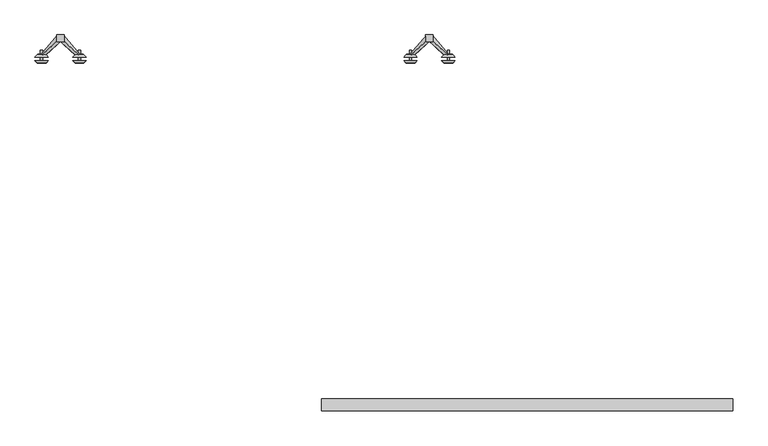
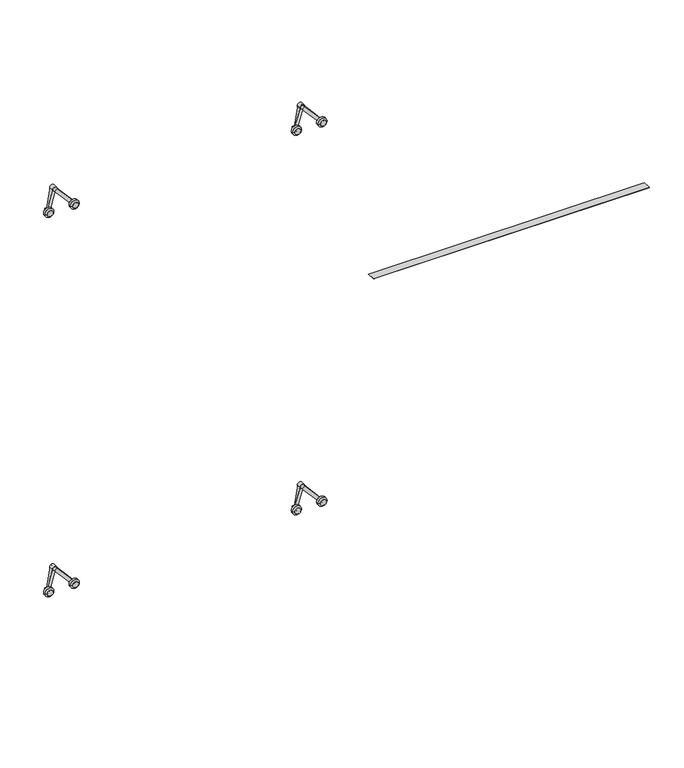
"""IFC4 building model written with IfcOpenShell, lengths in millimetres: proxy geometry, Ponto de ônibus_final : Ponto de ônibus_final."""

from ifc_helpers import new_model, si_unit, point, frame, frame_2d, origin, place, context, project, spatial, polyline, circle_curve, trimmed, segment, composite_curve, outline, extrude, source, transform, mapped, element, save
from ifc_brep_helpers import plane_surface, cylinder_surface, revolved_surface, advanced_brep


def generic_models_ae14a86f(model_context):
    return source(origin(), model_context, "Body", "SolidModel", [
        extrude(outline(polyline([(-17.7, 0.0), (-17.7, 1.5875), (-3.1750001, 1.5875), (63.5, 57.15), (69.8499999, 57.15), (69.8499999, 44.45), (0.0, 0.0), (-17.7, 0.0)])), frame((-40.8119185, 16.35, 470.3685688), z_axis=(-0.7071067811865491, 0.0, 0.707106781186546), x_axis=(0.707106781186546, 0.0, 0.7071067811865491)), (0.0, 0.0, 1.0), 15.0),
        extrude(outline(polyline([(-17.7000001, 0.0), (0.0, 0.0), (69.8499999, -44.45), (69.8499999, -57.15), (63.5, -57.15), (-3.1750001, -1.5875), (-17.7000001, -1.5875), (-17.7000001, 0.0)])), frame((42.874169, 16.35, 470.3685688), z_axis=(0.7071067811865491, 0.0, 0.707106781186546), x_axis=(-0.707106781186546, 0.0, 0.7071067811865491)), (0.0, 0.0, 1.0), 15.0),
        advanced_brep(
        [(42.3061253, -6.35, 468.8432143), (67.7061253, -6.35, 468.8432143), (35.9561253, 0.0, 468.8432143), (74.0561253, 0.0, 468.8432143)],
        [
            (0, 1, circle_curve(frame((55.0061253, -6.35, 468.8432143), z_axis=(0.0, -1.0, 0.0), x_axis=(-1.0, 0.0, 0.0)), 12.7)),
            (1, 0, circle_curve(frame((55.0061253, -6.35, 468.8432143), z_axis=(0.0, -1.0, 0.0), x_axis=(1.0, 0.0, 0.0)), 12.7)),
            (2, 3, circle_curve(frame((55.0061253, 0.0, 468.8432143), z_axis=(0.0, 1.0, 0.0), x_axis=(1.0, 0.0, 0.0)), 19.05)),
            (3, 2, circle_curve(frame((55.0061253, 0.0, 468.8432143), z_axis=(0.0, 1.0, 0.0), x_axis=(-1.0, 0.0, 0.0)), 19.05)),
            (2, 0),
            (1, 3),
        ],
        [
            plane_surface(frame((55.0061253, -6.35, 468.8432143), z_axis=(0.0, -1.0, 0.0), x_axis=(0.0, 0.0, -1.0))),
            plane_surface(frame((55.0061253, 0.0, 468.8432143), z_axis=(0.0, 1.0, 0.0), x_axis=(0.0, 0.0, -1.0))),
            revolved_surface(polyline([(67.70612530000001, -6.35, 468.8432143), (74.0561253, 0.0, 468.8432143)]), (55.0061253, -19.05, 468.8432143), (0.0, 1.0, 0.0)),
            revolved_surface(polyline([(42.3061253, -6.35, 468.8432143), (35.9561253, 0.0, 468.8432143)]), (55.0061253, -19.05, 468.8432143), (0.0, 1.0, 0.0)),
        ],
        [
            (0, [[1, 2]]),
            (1, [[3, 4]]),
            (2, [[-3, 5, -2, 6]]),
            (3, [[-4, -6, -1, -5]]),
        ],
    ),
        advanced_brep(
        [(42.3061253, 16.35, 468.8432143), (67.7061253, 16.35, 468.8432143), (51.8311253, 16.35, 468.8432143), (58.1811253, 16.35, 468.8432143), (35.9561253, 10.0, 468.8432143), (74.0561253, 10.0, 468.8432143), (58.1811253, 10.0, 468.8432143), (51.8311253, 10.0, 468.8432143), (58.1811253, 30.0, 468.8432143), (51.8311253, 30.0, 468.8432143), (58.1811253, 0.0, 468.8432143), (51.8311253, 0.0, 468.8432143)],
        [
            (0, 1, circle_curve(frame((55.0061253, 16.35, 468.8432143), z_axis=(0.0, 1.0, 0.0), x_axis=(-1.0, 0.0, 0.0)), 12.7)),
            (1, 0, circle_curve(frame((55.0061253, 16.35, 468.8432143), z_axis=(0.0, 1.0, 0.0), x_axis=(1.0, 0.0, 0.0)), 12.7)),
            (2, 3, circle_curve(frame((55.0061253, 16.35, 468.8432143), z_axis=(0.0, -1.0, 0.0), x_axis=(-1.0, 0.0, 0.0)), 3.175)),
            (3, 2, circle_curve(frame((55.0061253, 16.35, 468.8432143), z_axis=(0.0, -1.0, 0.0), x_axis=(-1.0, 0.0, 0.0)), 3.175)),
            (4, 5, circle_curve(frame((55.0061253, 10.0, 468.8432143), z_axis=(0.0, -1.0, 0.0), x_axis=(1.0, 0.0, 0.0)), 19.05)),
            (5, 4, circle_curve(frame((55.0061253, 10.0, 468.8432143), z_axis=(0.0, -1.0, 0.0), x_axis=(-1.0, 0.0, 0.0)), 19.05)),
            (6, 7, circle_curve(frame((55.0061253, 10.0, 468.8432143), z_axis=(0.0, 1.0, 0.0), x_axis=(-1.0, 0.0, 0.0)), 3.175)),
            (7, 6, circle_curve(frame((55.0061253, 10.0, 468.8432143), z_axis=(0.0, 1.0, 0.0), x_axis=(-1.0, 0.0, 0.0)), 3.175)),
            (1, 5),
            (4, 0),
            (8, 9, circle_curve(frame((55.0061253, 30.0, 468.8432143), z_axis=(0.0, 1.0, 0.0), x_axis=(-1.0, 0.0, 0.0)), 3.175)),
            (9, 8, circle_curve(frame((55.0061253, 30.0, 468.8432143), z_axis=(0.0, 1.0, 0.0), x_axis=(-1.0, 0.0, 0.0)), 3.175)),
            (10, 11, circle_curve(frame((55.0061253, 0.0, 468.8432143), z_axis=(0.0, -1.0, 0.0), x_axis=(-1.0, 0.0, 0.0)), 3.175)),
            (11, 10, circle_curve(frame((55.0061253, 0.0, 468.8432143), z_axis=(0.0, -1.0, 0.0), x_axis=(-1.0, 0.0, 0.0)), 3.175)),
            (8, 3),
            (2, 9),
            (11, 7),
            (6, 10),
        ],
        [
            plane_surface(frame((55.0061253, 16.35, 468.8432143), z_axis=(0.0, 1.0, 0.0), x_axis=(0.0, 0.0, -1.0))),
            plane_surface(frame((55.0061253, 10.0, 468.8432143), z_axis=(0.0, -1.0, 0.0), x_axis=(0.0, 0.0, -1.0))),
            revolved_surface(polyline([(67.7061253, 16.35, 468.8432143), (74.0561253, 10.0, 468.8432143)]), (55.0061253, 29.05, 468.8432143), (0.0, -1.0, 0.0)),
            revolved_surface(polyline([(42.3061253, 16.35, 468.8432143), (35.9561253, 10.0, 468.8432143)]), (55.0061253, 29.05, 468.8432143), (0.0, -1.0, 0.0)),
            plane_surface(frame((51.8311253, 30.0, 468.8432143), z_axis=(0.0, 1.0, 0.0), x_axis=(0.0, 0.0, 1.0))),
            plane_surface(frame((51.8311253, 0.0, 468.8432143), z_axis=(0.0, -1.0, 0.0), x_axis=(0.0, 0.0, -1.0))),
            cylinder_surface(frame((55.0061253, 0.0, 468.8432143), z_axis=(0.0, 1.0, 0.0), x_axis=(-1.0, 0.0, 0.0)), 3.175),
        ],
        [
            (0, [[1, 2], [3, 4]]),
            (1, [[5, 6], [7, 8]]),
            (2, [[-2, 9, -5, 10]]),
            (3, [[-1, -10, -6, -9]]),
            (4, [[11, 12]]),
            (5, [[13, 14]]),
            (6, [[-11, 15, -3, 16]]),
            (6, [[-14, 17, -7, 18]]),
            (6, [[-12, -16, -4, -15]]),
            (6, [[-13, -18, -8, -17]]),
        ],
    ),
        advanced_brep(
        [(-65.6438747, -6.35, 468.8432143), (-40.2438747, -6.35, 468.8432143), (-71.9938747, 0.0, 468.8432143), (-33.8938747, 0.0, 468.8432143)],
        [
            (0, 1, circle_curve(frame((-52.9438747, -6.35, 468.8432143), z_axis=(0.0, -1.0, 0.0), x_axis=(-1.0, 0.0, 0.0)), 12.7)),
            (1, 0, circle_curve(frame((-52.9438747, -6.35, 468.8432143), z_axis=(0.0, -1.0, 0.0), x_axis=(1.0, 0.0, 0.0)), 12.7)),
            (2, 3, circle_curve(frame((-52.9438747, 0.0, 468.8432143), z_axis=(0.0, 1.0, 0.0), x_axis=(1.0, 0.0, 0.0)), 19.05)),
            (3, 2, circle_curve(frame((-52.9438747, 0.0, 468.8432143), z_axis=(0.0, 1.0, 0.0), x_axis=(-1.0, 0.0, 0.0)), 19.05)),
            (2, 0),
            (1, 3),
        ],
        [
            plane_surface(frame((-52.9438747, -6.35, 468.8432143), z_axis=(0.0, -1.0, 0.0), x_axis=(0.0, 0.0, -1.0))),
            plane_surface(frame((-52.9438747, 0.0, 468.8432143), z_axis=(0.0, 1.0, 0.0), x_axis=(0.0, 0.0, -1.0))),
            revolved_surface(polyline([(-40.2438747, -6.35, 468.8432143), (-33.8938747, 0.0, 468.8432143)]), (-52.9438747, -19.05, 468.8432143), (0.0, 1.0, 0.0)),
            revolved_surface(polyline([(-65.64387470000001, -6.35, 468.8432143), (-71.9938747, 0.0, 468.8432143)]), (-52.9438747, -19.05, 468.8432143), (0.0, 1.0, 0.0)),
        ],
        [
            (0, [[1, 2]]),
            (1, [[3, 4]]),
            (2, [[-3, 5, -2, 6]]),
            (3, [[-4, -6, -1, -5]]),
        ],
    ),
        advanced_brep(
        [(-65.6438747, 16.35, 468.8432143), (-40.2438747, 16.35, 468.8432143), (-56.1188747, 16.35, 468.8432143), (-49.7688747, 16.35, 468.8432143), (-71.9938747, 10.0, 468.8432143), (-33.8938747, 10.0, 468.8432143), (-49.7688747, 10.0, 468.8432143), (-56.1188747, 10.0, 468.8432143), (-49.7688747, 30.0, 468.8432143), (-56.1188747, 30.0, 468.8432143), (-49.7688747, 0.0, 468.8432143), (-56.1188747, 0.0, 468.8432143)],
        [
            (0, 1, circle_curve(frame((-52.9438747, 16.35, 468.8432143), z_axis=(0.0, 1.0, 0.0), x_axis=(-1.0, 0.0, 0.0)), 12.7)),
            (1, 0, circle_curve(frame((-52.9438747, 16.35, 468.8432143), z_axis=(0.0, 1.0, 0.0), x_axis=(1.0, 0.0, 0.0)), 12.7)),
            (2, 3, circle_curve(frame((-52.9438747, 16.35, 468.8432143), z_axis=(0.0, -1.0, 0.0), x_axis=(-1.0, 0.0, 0.0)), 3.175)),
            (3, 2, circle_curve(frame((-52.9438747, 16.35, 468.8432143), z_axis=(0.0, -1.0, 0.0), x_axis=(-1.0, 0.0, 0.0)), 3.175)),
            (4, 5, circle_curve(frame((-52.9438747, 10.0, 468.8432143), z_axis=(0.0, -1.0, 0.0), x_axis=(1.0, 0.0, 0.0)), 19.05)),
            (5, 4, circle_curve(frame((-52.9438747, 10.0, 468.8432143), z_axis=(0.0, -1.0, 0.0), x_axis=(-1.0, 0.0, 0.0)), 19.05)),
            (6, 7, circle_curve(frame((-52.9438747, 10.0, 468.8432143), z_axis=(0.0, 1.0, 0.0), x_axis=(-1.0, 0.0, 0.0)), 3.175)),
            (7, 6, circle_curve(frame((-52.9438747, 10.0, 468.8432143), z_axis=(0.0, 1.0, 0.0), x_axis=(-1.0, 0.0, 0.0)), 3.175)),
            (1, 5),
            (4, 0),
            (8, 9, circle_curve(frame((-52.9438747, 30.0, 468.8432143), z_axis=(0.0, 1.0, 0.0), x_axis=(-1.0, 0.0, 0.0)), 3.175)),
            (9, 8, circle_curve(frame((-52.9438747, 30.0, 468.8432143), z_axis=(0.0, 1.0, 0.0), x_axis=(-1.0, 0.0, 0.0)), 3.175)),
            (10, 11, circle_curve(frame((-52.9438747, 0.0, 468.8432143), z_axis=(0.0, -1.0, 0.0), x_axis=(-1.0, 0.0, 0.0)), 3.175)),
            (11, 10, circle_curve(frame((-52.9438747, 0.0, 468.8432143), z_axis=(0.0, -1.0, 0.0), x_axis=(-1.0, 0.0, 0.0)), 3.175)),
            (8, 3),
            (2, 9),
            (11, 7),
            (6, 10),
        ],
        [
            plane_surface(frame((-52.9438747, 16.35, 468.8432143), z_axis=(0.0, 1.0, 0.0), x_axis=(0.0, 0.0, -1.0))),
            plane_surface(frame((-52.9438747, 10.0, 468.8432143), z_axis=(0.0, -1.0, 0.0), x_axis=(0.0, 0.0, -1.0))),
            revolved_surface(polyline([(-40.2438747, 16.35, 468.8432143), (-33.8938747, 10.0, 468.8432143)]), (-52.9438747, 29.05, 468.8432143), (0.0, -1.0, 0.0)),
            revolved_surface(polyline([(-65.6438747, 16.35, 468.8432143), (-71.9938747, 10.0, 468.8432143)]), (-52.9438747, 29.05, 468.8432143), (0.0, -1.0, 0.0)),
            plane_surface(frame((-56.1188747, 30.0, 468.8432143), z_axis=(0.0, 1.0, 0.0), x_axis=(0.0, 0.0, 1.0))),
            plane_surface(frame((-56.1188747, 0.0, 468.8432143), z_axis=(0.0, -1.0, 0.0), x_axis=(0.0, 0.0, -1.0))),
            cylinder_surface(frame((-52.9438747, 0.0, 468.8432143), z_axis=(0.0, 1.0, 0.0), x_axis=(-1.0, 0.0, 0.0)), 3.175),
        ],
        [
            (0, [[1, 2], [3, 4]]),
            (1, [[5, 6], [7, 8]]),
            (2, [[-2, 9, -5, 10]]),
            (3, [[-1, -10, -6, -9]]),
            (4, [[11, 12]]),
            (5, [[13, 14]]),
            (6, [[-11, 15, -3, 16]]),
            (6, [[-14, 17, -7, 18]]),
            (6, [[-12, -16, -4, -15]]),
            (6, [[-13, -18, -8, -17]]),
        ],
    ),
        extrude(outline(composite_curve([segment(trimmed(circle_curve(frame_2d((522.8182143, 1.0311253)), 10.6066017), [point((522.8182143, -9.5754765))], [point((522.8182143, 11.637727))], False, "CARTESIAN"), True, "CONTINUOUS"), segment(trimmed(circle_curve(frame_2d((522.8182143, 1.0311253)), 10.6066017), [point((522.8182143, 11.637727))], [point((522.8182143, -9.5754765))], False, "CARTESIAN"), True, "CONTINUOUS")], self_intersect=False)), frame((0.0, 54.0068182, 0.0), z_axis=(0.0, 1.0, 0.0), x_axis=(0.0, 0.0, 1.0)), (0.0, 0.0, 1.0), 19.4931818),
        extrude(outline(polyline([(-17.7000001, 0.0), (-17.7000001, 1.5875), (-3.1750001, 1.5875), (63.5, 57.15), (69.8499999, 57.15), (69.8499999, 44.45), (0.0, 0.0), (-17.7000001, 0.0)])), frame((-1091.3274811, 16.35, 470.3685688), z_axis=(-0.7071067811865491, 0.0, 0.707106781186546), x_axis=(0.707106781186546, 0.0, 0.7071067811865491)), (0.0, 0.0, 1.0), 15.0),
        extrude(outline(polyline([(-17.7, 0.0), (0.0, 0.0), (69.85, -44.45), (69.85, -57.15), (63.5, -57.15), (-3.175, -1.5875), (-17.7, -1.5875), (-17.7, 0.0)])), frame((-1007.6413936, 16.35, 470.3685688), z_axis=(0.7071067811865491, 0.0, 0.707106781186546), x_axis=(-0.707106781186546, 0.0, 0.7071067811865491)), (0.0, 0.0, 1.0), 15.0),
        advanced_brep(
        [(-1008.2094374, -6.35, 468.8432143), (-982.8094374, -6.35, 468.8432143), (-1014.5594374, 0.0, 468.8432143), (-976.4594374, 0.0, 468.8432143)],
        [
            (0, 1, circle_curve(frame((-995.5094374, -6.35, 468.8432143), z_axis=(0.0, -1.0, 0.0), x_axis=(-1.0, 0.0, 0.0)), 12.7)),
            (1, 0, circle_curve(frame((-995.5094374, -6.35, 468.8432143), z_axis=(0.0, -1.0, 0.0), x_axis=(1.0, 0.0, 0.0)), 12.7)),
            (2, 3, circle_curve(frame((-995.5094374, 0.0, 468.8432143), z_axis=(0.0, 1.0, 0.0), x_axis=(1.0, 0.0, 0.0)), 19.05)),
            (3, 2, circle_curve(frame((-995.5094374, 0.0, 468.8432143), z_axis=(0.0, 1.0, 0.0), x_axis=(-1.0, 0.0, 0.0)), 19.05)),
            (2, 0),
            (1, 3),
        ],
        [
            plane_surface(frame((-995.5094374, -6.35, 468.8432143), z_axis=(0.0, -1.0, 0.0), x_axis=(0.0, 0.0, -1.0))),
            plane_surface(frame((-995.5094374, 0.0, 468.8432143), z_axis=(0.0, 1.0, 0.0), x_axis=(0.0, 0.0, -1.0))),
            revolved_surface(polyline([(-982.8094374, -6.35, 468.8432143), (-976.4594374, 0.0, 468.8432143)]), (-995.5094374, -19.05, 468.8432143), (0.0, 1.0, 0.0)),
            revolved_surface(polyline([(-1008.2094374, -6.35, 468.8432143), (-1014.5594374, 0.0, 468.8432143)]), (-995.5094374, -19.05, 468.8432143), (0.0, 1.0, 0.0)),
        ],
        [
            (0, [[1, 2]]),
            (1, [[3, 4]]),
            (2, [[-3, 5, -2, 6]]),
            (3, [[-4, -6, -1, -5]]),
        ],
    ),
        advanced_brep(
        [(-1008.2094374, 16.35, 468.8432143), (-982.8094374, 16.35, 468.8432143), (-998.6844374, 16.35, 468.8432143), (-992.3344374, 16.35, 468.8432143), (-1014.5594374, 10.0, 468.8432143), (-976.4594374, 10.0, 468.8432143), (-992.3344374, 10.0, 468.8432143), (-998.6844374, 10.0, 468.8432143), (-992.3344374, 30.0, 468.8432143), (-998.6844374, 30.0, 468.8432143), (-992.3344374, 0.0, 468.8432143), (-998.6844374, 0.0, 468.8432143)],
        [
            (0, 1, circle_curve(frame((-995.5094374, 16.35, 468.8432143), z_axis=(0.0, 1.0, 0.0), x_axis=(-1.0, 0.0, 0.0)), 12.7)),
            (1, 0, circle_curve(frame((-995.5094374, 16.35, 468.8432143), z_axis=(0.0, 1.0, 0.0), x_axis=(1.0, 0.0, 0.0)), 12.7)),
            (2, 3, circle_curve(frame((-995.5094374, 16.35, 468.8432143), z_axis=(0.0, -1.0, 0.0), x_axis=(-1.0, 0.0, 0.0)), 3.175)),
            (3, 2, circle_curve(frame((-995.5094374, 16.35, 468.8432143), z_axis=(0.0, -1.0, 0.0), x_axis=(-1.0, 0.0, 0.0)), 3.175)),
            (4, 5, circle_curve(frame((-995.5094374, 10.0, 468.8432143), z_axis=(0.0, -1.0, 0.0), x_axis=(1.0, 0.0, 0.0)), 19.05)),
            (5, 4, circle_curve(frame((-995.5094374, 10.0, 468.8432143), z_axis=(0.0, -1.0, 0.0), x_axis=(-1.0, 0.0, 0.0)), 19.05)),
            (6, 7, circle_curve(frame((-995.5094374, 10.0, 468.8432143), z_axis=(0.0, 1.0, 0.0), x_axis=(-1.0, 0.0, 0.0)), 3.175)),
            (7, 6, circle_curve(frame((-995.5094374, 10.0, 468.8432143), z_axis=(0.0, 1.0, 0.0), x_axis=(-1.0, 0.0, 0.0)), 3.175)),
            (1, 5),
            (4, 0),
            (8, 9, circle_curve(frame((-995.5094374, 30.0, 468.8432143), z_axis=(0.0, 1.0, 0.0), x_axis=(-1.0, 0.0, 0.0)), 3.175)),
            (9, 8, circle_curve(frame((-995.5094374, 30.0, 468.8432143), z_axis=(0.0, 1.0, 0.0), x_axis=(-1.0, 0.0, 0.0)), 3.175)),
            (10, 11, circle_curve(frame((-995.5094374, 0.0, 468.8432143), z_axis=(0.0, -1.0, 0.0), x_axis=(-1.0, 0.0, 0.0)), 3.175)),
            (11, 10, circle_curve(frame((-995.5094374, 0.0, 468.8432143), z_axis=(0.0, -1.0, 0.0), x_axis=(-1.0, 0.0, 0.0)), 3.175)),
            (8, 3),
            (2, 9),
            (11, 7),
            (6, 10),
        ],
        [
            plane_surface(frame((-995.5094374, 16.35, 468.8432143), z_axis=(0.0, 1.0, 0.0), x_axis=(0.0, 0.0, -1.0))),
            plane_surface(frame((-995.5094374, 10.0, 468.8432143), z_axis=(0.0, -1.0, 0.0), x_axis=(0.0, 0.0, -1.0))),
            revolved_surface(polyline([(-982.8094374, 16.35, 468.8432143), (-976.4594374, 10.0, 468.8432143)]), (-995.5094374, 29.05, 468.8432143), (0.0, -1.0, 0.0)),
            revolved_surface(polyline([(-1008.2094374, 16.35, 468.8432143), (-1014.5594374, 10.0, 468.8432143)]), (-995.5094374, 29.05, 468.8432143), (0.0, -1.0, 0.0)),
            plane_surface(frame((-998.6844374, 30.0, 468.8432143), z_axis=(0.0, 1.0, 0.0), x_axis=(0.0, 0.0, 1.0))),
            plane_surface(frame((-998.6844374, 0.0, 468.8432143), z_axis=(0.0, -1.0, 0.0), x_axis=(0.0, 0.0, -1.0))),
            cylinder_surface(frame((-995.5094374, 0.0, 468.8432143), z_axis=(0.0, 1.0, 0.0), x_axis=(-1.0, 0.0, 0.0)), 3.175),
        ],
        [
            (0, [[1, 2], [3, 4]]),
            (1, [[5, 6], [7, 8]]),
            (2, [[-2, 9, -5, 10]]),
            (3, [[-1, -10, -6, -9]]),
            (4, [[11, 12]]),
            (5, [[13, 14]]),
            (6, [[-11, 15, -3, 16]]),
            (6, [[-14, 17, -7, 18]]),
            (6, [[-12, -16, -4, -15]]),
            (6, [[-13, -18, -8, -17]]),
        ],
    ),
        advanced_brep(
        [(-1116.1594374, -6.35, 468.8432143), (-1090.7594374, -6.35, 468.8432143), (-1122.5094374, 0.0, 468.8432143), (-1084.4094374, 0.0, 468.8432143)],
        [
            (0, 1, circle_curve(frame((-1103.4594374, -6.35, 468.8432143), z_axis=(0.0, -1.0, 0.0), x_axis=(-1.0, 0.0, 0.0)), 12.7)),
            (1, 0, circle_curve(frame((-1103.4594374, -6.35, 468.8432143), z_axis=(0.0, -1.0, 0.0), x_axis=(1.0, 0.0, 0.0)), 12.7)),
            (2, 3, circle_curve(frame((-1103.4594374, 0.0, 468.8432143), z_axis=(0.0, 1.0, 0.0), x_axis=(1.0, 0.0, 0.0)), 19.05)),
            (3, 2, circle_curve(frame((-1103.4594374, 0.0, 468.8432143), z_axis=(0.0, 1.0, 0.0), x_axis=(-1.0, 0.0, 0.0)), 19.05)),
            (2, 0),
            (1, 3),
        ],
        [
            plane_surface(frame((-1103.4594374, -6.35, 468.8432143), z_axis=(0.0, -1.0, 0.0), x_axis=(0.0, 0.0, -1.0))),
            plane_surface(frame((-1103.4594374, 0.0, 468.8432143), z_axis=(0.0, 1.0, 0.0), x_axis=(0.0, 0.0, -1.0))),
            revolved_surface(polyline([(-1090.7594374, -6.35, 468.8432143), (-1084.4094374, 0.0, 468.8432143)]), (-1103.4594374, -19.05, 468.8432143), (0.0, 1.0, 0.0)),
            revolved_surface(polyline([(-1116.1594374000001, -6.35, 468.8432143), (-1122.5094374, 0.0, 468.8432143)]), (-1103.4594374, -19.05, 468.8432143), (0.0, 1.0, 0.0)),
        ],
        [
            (0, [[1, 2]]),
            (1, [[3, 4]]),
            (2, [[-3, 5, -2, 6]]),
            (3, [[-4, -6, -1, -5]]),
        ],
    ),
        advanced_brep(
        [(-1116.1594374, 16.35, 468.8432143), (-1090.7594374, 16.35, 468.8432143), (-1106.6344374, 16.35, 468.8432143), (-1100.2844374, 16.35, 468.8432143), (-1122.5094374, 10.0, 468.8432143), (-1084.4094374, 10.0, 468.8432143), (-1100.2844374, 10.0, 468.8432143), (-1106.6344374, 10.0, 468.8432143), (-1100.2844374, 30.0, 468.8432143), (-1106.6344374, 30.0, 468.8432143), (-1100.2844374, 0.0, 468.8432143), (-1106.6344374, 0.0, 468.8432143)],
        [
            (0, 1, circle_curve(frame((-1103.4594374, 16.35, 468.8432143), z_axis=(0.0, 1.0, 0.0), x_axis=(-1.0, 0.0, 0.0)), 12.7)),
            (1, 0, circle_curve(frame((-1103.4594374, 16.35, 468.8432143), z_axis=(0.0, 1.0, 0.0), x_axis=(1.0, 0.0, 0.0)), 12.7)),
            (2, 3, circle_curve(frame((-1103.4594374, 16.35, 468.8432143), z_axis=(0.0, -1.0, 0.0), x_axis=(-1.0, 0.0, 0.0)), 3.175)),
            (3, 2, circle_curve(frame((-1103.4594374, 16.35, 468.8432143), z_axis=(0.0, -1.0, 0.0), x_axis=(-1.0, 0.0, 0.0)), 3.175)),
            (4, 5, circle_curve(frame((-1103.4594374, 10.0, 468.8432143), z_axis=(0.0, -1.0, 0.0), x_axis=(1.0, 0.0, 0.0)), 19.05)),
            (5, 4, circle_curve(frame((-1103.4594374, 10.0, 468.8432143), z_axis=(0.0, -1.0, 0.0), x_axis=(-1.0, 0.0, 0.0)), 19.05)),
            (6, 7, circle_curve(frame((-1103.4594374, 10.0, 468.8432143), z_axis=(0.0, 1.0, 0.0), x_axis=(-1.0, 0.0, 0.0)), 3.175)),
            (7, 6, circle_curve(frame((-1103.4594374, 10.0, 468.8432143), z_axis=(0.0, 1.0, 0.0), x_axis=(-1.0, 0.0, 0.0)), 3.175)),
            (1, 5),
            (4, 0),
            (8, 9, circle_curve(frame((-1103.4594374, 30.0, 468.8432143), z_axis=(0.0, 1.0, 0.0), x_axis=(-1.0, 0.0, 0.0)), 3.175)),
            (9, 8, circle_curve(frame((-1103.4594374, 30.0, 468.8432143), z_axis=(0.0, 1.0, 0.0), x_axis=(-1.0, 0.0, 0.0)), 3.175)),
            (10, 11, circle_curve(frame((-1103.4594374, 0.0, 468.8432143), z_axis=(0.0, -1.0, 0.0), x_axis=(-1.0, 0.0, 0.0)), 3.175)),
            (11, 10, circle_curve(frame((-1103.4594374, 0.0, 468.8432143), z_axis=(0.0, -1.0, 0.0), x_axis=(-1.0, 0.0, 0.0)), 3.175)),
            (8, 3),
            (2, 9),
            (11, 7),
            (6, 10),
        ],
        [
            plane_surface(frame((-1103.4594374, 16.35, 468.8432143), z_axis=(0.0, 1.0, 0.0), x_axis=(0.0, 0.0, -1.0))),
            plane_surface(frame((-1103.4594374, 10.0, 468.8432143), z_axis=(0.0, -1.0, 0.0), x_axis=(0.0, 0.0, -1.0))),
            revolved_surface(polyline([(-1090.7594374, 16.35, 468.8432143), (-1084.4094374, 10.0, 468.8432143)]), (-1103.4594374, 29.05, 468.8432143), (0.0, -1.0, 0.0)),
            revolved_surface(polyline([(-1116.1594374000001, 16.35, 468.8432143), (-1122.5094374, 10.0, 468.8432143)]), (-1103.4594374, 29.05, 468.8432143), (0.0, -1.0, 0.0)),
            plane_surface(frame((-1106.6344374, 30.0, 468.8432143), z_axis=(0.0, 1.0, 0.0), x_axis=(0.0, 0.0, 1.0))),
            plane_surface(frame((-1106.6344374, 0.0, 468.8432143), z_axis=(0.0, -1.0, 0.0), x_axis=(0.0, 0.0, -1.0))),
            cylinder_surface(frame((-1103.4594374, 0.0, 468.8432143), z_axis=(0.0, 1.0, 0.0), x_axis=(-1.0, 0.0, 0.0)), 3.175),
        ],
        [
            (0, [[1, 2], [3, 4]]),
            (1, [[5, 6], [7, 8]]),
            (2, [[-2, 9, -5, 10]]),
            (3, [[-1, -10, -6, -9]]),
            (4, [[11, 12]]),
            (5, [[13, 14]]),
            (6, [[-11, 15, -3, 16]]),
            (6, [[-14, 17, -7, 18]]),
            (6, [[-12, -16, -4, -15]]),
            (6, [[-13, -18, -8, -17]]),
        ],
    ),
        extrude(outline(composite_curve([segment(trimmed(circle_curve(frame_2d((522.8182143, -1049.4844374)), 10.6066017), [point((522.8182143, -1060.0910391))], [point((522.8182143, -1038.8778357))], False, "CARTESIAN"), True, "CONTINUOUS"), segment(trimmed(circle_curve(frame_2d((522.8182143, -1049.4844374)), 10.6066017), [point((522.8182143, -1038.8778357))], [point((522.8182143, -1060.0910391))], False, "CARTESIAN"), True, "CONTINUOUS")], self_intersect=False)), frame((0.0, 54.0068182, 0.0), z_axis=(0.0, 1.0, 0.0), x_axis=(0.0, 0.0, 1.0)), (0.0, 0.0, 1.0), 19.4931818),
        extrude(outline(polyline([(-17.7, 0.0), (-17.7, 1.5875), (-3.1750001, 1.5875), (63.5, 57.15), (69.8499999, 57.15), (69.8499999, 44.45), (0.0, 0.0), (-17.7, 0.0)])), frame((-40.8119185, 16.35, 2170.3685688), z_axis=(-0.7071067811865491, 0.0, 0.707106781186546), x_axis=(0.707106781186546, 0.0, 0.7071067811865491)), (0.0, 0.0, 1.0), 15.0),
        extrude(outline(polyline([(-17.7000001, 0.0), (0.0, 0.0), (69.8499999, -44.45), (69.8499999, -57.15), (63.5, -57.15), (-3.1750001, -1.5875), (-17.7000001, -1.5875), (-17.7000001, 0.0)])), frame((42.874169, 16.35, 2170.3685688), z_axis=(0.7071067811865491, 0.0, 0.707106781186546), x_axis=(-0.707106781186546, 0.0, 0.7071067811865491)), (0.0, 0.0, 1.0), 15.0),
        advanced_brep(
        [(42.3061253, -6.35, 2168.8432143), (67.7061253, -6.35, 2168.8432143), (35.9561253, 0.0, 2168.8432143), (74.0561253, 0.0, 2168.8432143)],
        [
            (0, 1, circle_curve(frame((55.0061253, -6.35, 2168.8432143), z_axis=(0.0, -1.0, 0.0), x_axis=(-1.0, 0.0, 0.0)), 12.7)),
            (1, 0, circle_curve(frame((55.0061253, -6.35, 2168.8432143), z_axis=(0.0, -1.0, 0.0), x_axis=(1.0, 0.0, 0.0)), 12.7)),
            (2, 3, circle_curve(frame((55.0061253, 0.0, 2168.8432143), z_axis=(0.0, 1.0, 0.0), x_axis=(1.0, 0.0, 0.0)), 19.05)),
            (3, 2, circle_curve(frame((55.0061253, 0.0, 2168.8432143), z_axis=(0.0, 1.0, 0.0), x_axis=(-1.0, 0.0, 0.0)), 19.05)),
            (2, 0),
            (1, 3),
        ],
        [
            plane_surface(frame((55.0061253, -6.35, 2168.8432143), z_axis=(0.0, -1.0, 0.0), x_axis=(0.0, 0.0, -1.0))),
            plane_surface(frame((55.0061253, 0.0, 2168.8432143), z_axis=(0.0, 1.0, 0.0), x_axis=(0.0, 0.0, -1.0))),
            revolved_surface(polyline([(67.70612530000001, -6.35, 2168.8432143), (74.0561253, 0.0, 2168.8432143)]), (55.0061253, -19.05, 2168.8432143), (0.0, 1.0, 0.0)),
            revolved_surface(polyline([(42.3061253, -6.35, 2168.8432143), (35.9561253, 0.0, 2168.8432143)]), (55.0061253, -19.05, 2168.8432143), (0.0, 1.0, 0.0)),
        ],
        [
            (0, [[1, 2]]),
            (1, [[3, 4]]),
            (2, [[-3, 5, -2, 6]]),
            (3, [[-4, -6, -1, -5]]),
        ],
    ),
        advanced_brep(
        [(42.3061253, 16.35, 2168.8432143), (67.7061253, 16.35, 2168.8432143), (51.8311253, 16.35, 2168.8432143), (58.1811253, 16.35, 2168.8432143), (35.9561253, 10.0, 2168.8432143), (74.0561253, 10.0, 2168.8432143), (58.1811253, 10.0, 2168.8432143), (51.8311253, 10.0, 2168.8432143), (58.1811253, 30.0, 2168.8432143), (51.8311253, 30.0, 2168.8432143), (58.1811253, 0.0, 2168.8432143), (51.8311253, 0.0, 2168.8432143)],
        [
            (0, 1, circle_curve(frame((55.0061253, 16.35, 2168.8432143), z_axis=(0.0, 1.0, 0.0), x_axis=(-1.0, 0.0, 0.0)), 12.7)),
            (1, 0, circle_curve(frame((55.0061253, 16.35, 2168.8432143), z_axis=(0.0, 1.0, 0.0), x_axis=(1.0, 0.0, 0.0)), 12.7)),
            (2, 3, circle_curve(frame((55.0061253, 16.35, 2168.8432143), z_axis=(0.0, -1.0, 0.0), x_axis=(-1.0, 0.0, 0.0)), 3.175)),
            (3, 2, circle_curve(frame((55.0061253, 16.35, 2168.8432143), z_axis=(0.0, -1.0, 0.0), x_axis=(-1.0, 0.0, 0.0)), 3.175)),
            (4, 5, circle_curve(frame((55.0061253, 10.0, 2168.8432143), z_axis=(0.0, -1.0, 0.0), x_axis=(1.0, 0.0, 0.0)), 19.05)),
            (5, 4, circle_curve(frame((55.0061253, 10.0, 2168.8432143), z_axis=(0.0, -1.0, 0.0), x_axis=(-1.0, 0.0, 0.0)), 19.05)),
            (6, 7, circle_curve(frame((55.0061253, 10.0, 2168.8432143), z_axis=(0.0, 1.0, 0.0), x_axis=(-1.0, 0.0, 0.0)), 3.175)),
            (7, 6, circle_curve(frame((55.0061253, 10.0, 2168.8432143), z_axis=(0.0, 1.0, 0.0), x_axis=(-1.0, 0.0, 0.0)), 3.175)),
            (1, 5),
            (4, 0),
            (8, 9, circle_curve(frame((55.0061253, 30.0, 2168.8432143), z_axis=(0.0, 1.0, 0.0), x_axis=(-1.0, 0.0, 0.0)), 3.175)),
            (9, 8, circle_curve(frame((55.0061253, 30.0, 2168.8432143), z_axis=(0.0, 1.0, 0.0), x_axis=(-1.0, 0.0, 0.0)), 3.175)),
            (10, 11, circle_curve(frame((55.0061253, 0.0, 2168.8432143), z_axis=(0.0, -1.0, 0.0), x_axis=(-1.0, 0.0, 0.0)), 3.175)),
            (11, 10, circle_curve(frame((55.0061253, 0.0, 2168.8432143), z_axis=(0.0, -1.0, 0.0), x_axis=(-1.0, 0.0, 0.0)), 3.175)),
            (8, 3),
            (2, 9),
            (11, 7),
            (6, 10),
        ],
        [
            plane_surface(frame((55.0061253, 16.35, 2168.8432143), z_axis=(0.0, 1.0, 0.0), x_axis=(0.0, 0.0, -1.0))),
            plane_surface(frame((55.0061253, 10.0, 2168.8432143), z_axis=(0.0, -1.0, 0.0), x_axis=(0.0, 0.0, -1.0))),
            revolved_surface(polyline([(67.7061253, 16.35, 2168.8432143), (74.0561253, 10.0, 2168.8432143)]), (55.0061253, 29.05, 2168.8432143), (0.0, -1.0, 0.0)),
            revolved_surface(polyline([(42.3061253, 16.35, 2168.8432143), (35.9561253, 10.0, 2168.8432143)]), (55.0061253, 29.05, 2168.8432143), (0.0, -1.0, 0.0)),
            plane_surface(frame((51.8311253, 30.0, 2168.8432143), z_axis=(0.0, 1.0, 0.0), x_axis=(0.0, 0.0, 1.0))),
            plane_surface(frame((51.8311253, 0.0, 2168.8432143), z_axis=(0.0, -1.0, 0.0), x_axis=(0.0, 0.0, -1.0))),
            cylinder_surface(frame((55.0061253, 0.0, 2168.8432143), z_axis=(0.0, 1.0, 0.0), x_axis=(-1.0, 0.0, 0.0)), 3.175),
        ],
        [
            (0, [[1, 2], [3, 4]]),
            (1, [[5, 6], [7, 8]]),
            (2, [[-2, 9, -5, 10]]),
            (3, [[-1, -10, -6, -9]]),
            (4, [[11, 12]]),
            (5, [[13, 14]]),
            (6, [[-11, 15, -3, 16]]),
            (6, [[-14, 17, -7, 18]]),
            (6, [[-12, -16, -4, -15]]),
            (6, [[-13, -18, -8, -17]]),
        ],
    ),
        advanced_brep(
        [(-65.6438747, -6.35, 2168.8432143), (-40.2438747, -6.35, 2168.8432143), (-71.9938747, 0.0, 2168.8432143), (-33.8938747, 0.0, 2168.8432143)],
        [
            (0, 1, circle_curve(frame((-52.9438747, -6.35, 2168.8432143), z_axis=(0.0, -1.0, 0.0), x_axis=(-1.0, 0.0, 0.0)), 12.7)),
            (1, 0, circle_curve(frame((-52.9438747, -6.35, 2168.8432143), z_axis=(0.0, -1.0, 0.0), x_axis=(1.0, 0.0, 0.0)), 12.7)),
            (2, 3, circle_curve(frame((-52.9438747, 0.0, 2168.8432143), z_axis=(0.0, 1.0, 0.0), x_axis=(1.0, 0.0, 0.0)), 19.05)),
            (3, 2, circle_curve(frame((-52.9438747, 0.0, 2168.8432143), z_axis=(0.0, 1.0, 0.0), x_axis=(-1.0, 0.0, 0.0)), 19.05)),
            (2, 0),
            (1, 3),
        ],
        [
            plane_surface(frame((-52.9438747, -6.35, 2168.8432143), z_axis=(0.0, -1.0, 0.0), x_axis=(0.0, 0.0, -1.0))),
            plane_surface(frame((-52.9438747, 0.0, 2168.8432143), z_axis=(0.0, 1.0, 0.0), x_axis=(0.0, 0.0, -1.0))),
            revolved_surface(polyline([(-40.2438747, -6.35, 2168.8432143), (-33.8938747, 0.0, 2168.8432143)]), (-52.9438747, -19.05, 2168.8432143), (0.0, 1.0, 0.0)),
            revolved_surface(polyline([(-65.64387470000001, -6.35, 2168.8432143), (-71.9938747, 0.0, 2168.8432143)]), (-52.9438747, -19.05, 2168.8432143), (0.0, 1.0, 0.0)),
        ],
        [
            (0, [[1, 2]]),
            (1, [[3, 4]]),
            (2, [[-3, 5, -2, 6]]),
            (3, [[-4, -6, -1, -5]]),
        ],
    ),
        advanced_brep(
        [(-65.6438747, 16.35, 2168.8432143), (-40.2438747, 16.35, 2168.8432143), (-56.1188747, 16.35, 2168.8432143), (-49.7688747, 16.35, 2168.8432143), (-71.9938747, 10.0, 2168.8432143), (-33.8938747, 10.0, 2168.8432143), (-49.7688747, 10.0, 2168.8432143), (-56.1188747, 10.0, 2168.8432143), (-49.7688747, 30.0, 2168.8432143), (-56.1188747, 30.0, 2168.8432143), (-49.7688747, 0.0, 2168.8432143), (-56.1188747, 0.0, 2168.8432143)],
        [
            (0, 1, circle_curve(frame((-52.9438747, 16.35, 2168.8432143), z_axis=(0.0, 1.0, 0.0), x_axis=(-1.0, 0.0, 0.0)), 12.7)),
            (1, 0, circle_curve(frame((-52.9438747, 16.35, 2168.8432143), z_axis=(0.0, 1.0, 0.0), x_axis=(1.0, 0.0, 0.0)), 12.7)),
            (2, 3, circle_curve(frame((-52.9438747, 16.35, 2168.8432143), z_axis=(0.0, -1.0, 0.0), x_axis=(-1.0, 0.0, 0.0)), 3.175)),
            (3, 2, circle_curve(frame((-52.9438747, 16.35, 2168.8432143), z_axis=(0.0, -1.0, 0.0), x_axis=(-1.0, 0.0, 0.0)), 3.175)),
            (4, 5, circle_curve(frame((-52.9438747, 10.0, 2168.8432143), z_axis=(0.0, -1.0, 0.0), x_axis=(1.0, 0.0, 0.0)), 19.05)),
            (5, 4, circle_curve(frame((-52.9438747, 10.0, 2168.8432143), z_axis=(0.0, -1.0, 0.0), x_axis=(-1.0, 0.0, 0.0)), 19.05)),
            (6, 7, circle_curve(frame((-52.9438747, 10.0, 2168.8432143), z_axis=(0.0, 1.0, 0.0), x_axis=(-1.0, 0.0, 0.0)), 3.175)),
            (7, 6, circle_curve(frame((-52.9438747, 10.0, 2168.8432143), z_axis=(0.0, 1.0, 0.0), x_axis=(-1.0, 0.0, 0.0)), 3.175)),
            (1, 5),
            (4, 0),
            (8, 9, circle_curve(frame((-52.9438747, 30.0, 2168.8432143), z_axis=(0.0, 1.0, 0.0), x_axis=(-1.0, 0.0, 0.0)), 3.175)),
            (9, 8, circle_curve(frame((-52.9438747, 30.0, 2168.8432143), z_axis=(0.0, 1.0, 0.0), x_axis=(-1.0, 0.0, 0.0)), 3.175)),
            (10, 11, circle_curve(frame((-52.9438747, 0.0, 2168.8432143), z_axis=(0.0, -1.0, 0.0), x_axis=(-1.0, 0.0, 0.0)), 3.175)),
            (11, 10, circle_curve(frame((-52.9438747, 0.0, 2168.8432143), z_axis=(0.0, -1.0, 0.0), x_axis=(-1.0, 0.0, 0.0)), 3.175)),
            (8, 3),
            (2, 9),
            (11, 7),
            (6, 10),
        ],
        [
            plane_surface(frame((-52.9438747, 16.35, 2168.8432143), z_axis=(0.0, 1.0, 0.0), x_axis=(0.0, 0.0, -1.0))),
            plane_surface(frame((-52.9438747, 10.0, 2168.8432143), z_axis=(0.0, -1.0, 0.0), x_axis=(0.0, 0.0, -1.0))),
            revolved_surface(polyline([(-40.2438747, 16.35, 2168.8432143), (-33.8938747, 10.0, 2168.8432143)]), (-52.9438747, 29.05, 2168.8432143), (0.0, -1.0, 0.0)),
            revolved_surface(polyline([(-65.6438747, 16.35, 2168.8432143), (-71.9938747, 10.0, 2168.8432143)]), (-52.9438747, 29.05, 2168.8432143), (0.0, -1.0, 0.0)),
            plane_surface(frame((-56.1188747, 30.0, 2168.8432143), z_axis=(0.0, 1.0, 0.0), x_axis=(0.0, 0.0, 1.0))),
            plane_surface(frame((-56.1188747, 0.0, 2168.8432143), z_axis=(0.0, -1.0, 0.0), x_axis=(0.0, 0.0, -1.0))),
            cylinder_surface(frame((-52.9438747, 0.0, 2168.8432143), z_axis=(0.0, 1.0, 0.0), x_axis=(-1.0, 0.0, 0.0)), 3.175),
        ],
        [
            (0, [[1, 2], [3, 4]]),
            (1, [[5, 6], [7, 8]]),
            (2, [[-2, 9, -5, 10]]),
            (3, [[-1, -10, -6, -9]]),
            (4, [[11, 12]]),
            (5, [[13, 14]]),
            (6, [[-11, 15, -3, 16]]),
            (6, [[-14, 17, -7, 18]]),
            (6, [[-12, -16, -4, -15]]),
            (6, [[-13, -18, -8, -17]]),
        ],
    ),
        extrude(outline(composite_curve([segment(trimmed(circle_curve(frame_2d((2222.8182143, 1.0311253)), 10.6066017), [point((2222.8182143, -9.5754765))], [point((2222.8182143, 11.637727))], False, "CARTESIAN"), True, "CONTINUOUS"), segment(trimmed(circle_curve(frame_2d((2222.8182143, 1.0311253)), 10.6066017), [point((2222.8182143, 11.637727))], [point((2222.8182143, -9.5754765))], False, "CARTESIAN"), True, "CONTINUOUS")], self_intersect=False)), frame((0.0, 54.0068182, 0.0), z_axis=(0.0, 1.0, 0.0), x_axis=(0.0, 0.0, 1.0)), (0.0, 0.0, 1.0), 19.4931818),
        extrude(outline(polyline([(-17.7000001, 0.0), (-17.7000001, 1.5875), (-3.1750001, 1.5875), (63.5, 57.15), (69.8499999, 57.15), (69.8499999, 44.45), (0.0, 0.0), (-17.7000001, 0.0)])), frame((-1091.3274811, 16.35, 2170.3685688), z_axis=(-0.7071067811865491, 0.0, 0.707106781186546), x_axis=(0.707106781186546, 0.0, 0.7071067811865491)), (0.0, 0.0, 1.0), 15.0),
        extrude(outline(polyline([(-17.7, 0.0), (0.0, 0.0), (69.85, -44.45), (69.85, -57.15), (63.5, -57.15), (-3.175, -1.5875), (-17.7, -1.5875), (-17.7, 0.0)])), frame((-1007.6413936, 16.35, 2170.3685688), z_axis=(0.7071067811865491, 0.0, 0.707106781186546), x_axis=(-0.707106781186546, 0.0, 0.7071067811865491)), (0.0, 0.0, 1.0), 15.0),
        advanced_brep(
        [(-1008.2094374, -6.35, 2168.8432143), (-982.8094374, -6.35, 2168.8432143), (-1014.5594374, 0.0, 2168.8432143), (-976.4594374, 0.0, 2168.8432143)],
        [
            (0, 1, circle_curve(frame((-995.5094374, -6.35, 2168.8432143), z_axis=(0.0, -1.0, 0.0), x_axis=(-1.0, 0.0, 0.0)), 12.7)),
            (1, 0, circle_curve(frame((-995.5094374, -6.35, 2168.8432143), z_axis=(0.0, -1.0, 0.0), x_axis=(1.0, 0.0, 0.0)), 12.7)),
            (2, 3, circle_curve(frame((-995.5094374, 0.0, 2168.8432143), z_axis=(0.0, 1.0, 0.0), x_axis=(1.0, 0.0, 0.0)), 19.05)),
            (3, 2, circle_curve(frame((-995.5094374, 0.0, 2168.8432143), z_axis=(0.0, 1.0, 0.0), x_axis=(-1.0, 0.0, 0.0)), 19.05)),
            (2, 0),
            (1, 3),
        ],
        [
            plane_surface(frame((-995.5094374, -6.35, 2168.8432143), z_axis=(0.0, -1.0, 0.0), x_axis=(0.0, 0.0, -1.0))),
            plane_surface(frame((-995.5094374, 0.0, 2168.8432143), z_axis=(0.0, 1.0, 0.0), x_axis=(0.0, 0.0, -1.0))),
            revolved_surface(polyline([(-982.8094374, -6.35, 2168.8432143), (-976.4594374, 0.0, 2168.8432143)]), (-995.5094374, -19.05, 2168.8432143), (0.0, 1.0, 0.0)),
            revolved_surface(polyline([(-1008.2094374, -6.35, 2168.8432143), (-1014.5594374, 0.0, 2168.8432143)]), (-995.5094374, -19.05, 2168.8432143), (0.0, 1.0, 0.0)),
        ],
        [
            (0, [[1, 2]]),
            (1, [[3, 4]]),
            (2, [[-3, 5, -2, 6]]),
            (3, [[-4, -6, -1, -5]]),
        ],
    ),
        advanced_brep(
        [(-1008.2094374, 16.35, 2168.8432143), (-982.8094374, 16.35, 2168.8432143), (-998.6844374, 16.35, 2168.8432143), (-992.3344374, 16.35, 2168.8432143), (-1014.5594374, 10.0, 2168.8432143), (-976.4594374, 10.0, 2168.8432143), (-992.3344374, 10.0, 2168.8432143), (-998.6844374, 10.0, 2168.8432143), (-992.3344374, 30.0, 2168.8432143), (-998.6844374, 30.0, 2168.8432143), (-992.3344374, 0.0, 2168.8432143), (-998.6844374, 0.0, 2168.8432143)],
        [
            (0, 1, circle_curve(frame((-995.5094374, 16.35, 2168.8432143), z_axis=(0.0, 1.0, 0.0), x_axis=(-1.0, 0.0, 0.0)), 12.7)),
            (1, 0, circle_curve(frame((-995.5094374, 16.35, 2168.8432143), z_axis=(0.0, 1.0, 0.0), x_axis=(1.0, 0.0, 0.0)), 12.7)),
            (2, 3, circle_curve(frame((-995.5094374, 16.35, 2168.8432143), z_axis=(0.0, -1.0, 0.0), x_axis=(-1.0, 0.0, 0.0)), 3.175)),
            (3, 2, circle_curve(frame((-995.5094374, 16.35, 2168.8432143), z_axis=(0.0, -1.0, 0.0), x_axis=(-1.0, 0.0, 0.0)), 3.175)),
            (4, 5, circle_curve(frame((-995.5094374, 10.0, 2168.8432143), z_axis=(0.0, -1.0, 0.0), x_axis=(1.0, 0.0, 0.0)), 19.05)),
            (5, 4, circle_curve(frame((-995.5094374, 10.0, 2168.8432143), z_axis=(0.0, -1.0, 0.0), x_axis=(-1.0, 0.0, 0.0)), 19.05)),
            (6, 7, circle_curve(frame((-995.5094374, 10.0, 2168.8432143), z_axis=(0.0, 1.0, 0.0), x_axis=(-1.0, 0.0, 0.0)), 3.175)),
            (7, 6, circle_curve(frame((-995.5094374, 10.0, 2168.8432143), z_axis=(0.0, 1.0, 0.0), x_axis=(-1.0, 0.0, 0.0)), 3.175)),
            (1, 5),
            (4, 0),
            (8, 9, circle_curve(frame((-995.5094374, 30.0, 2168.8432143), z_axis=(0.0, 1.0, 0.0), x_axis=(-1.0, 0.0, 0.0)), 3.175)),
            (9, 8, circle_curve(frame((-995.5094374, 30.0, 2168.8432143), z_axis=(0.0, 1.0, 0.0), x_axis=(-1.0, 0.0, 0.0)), 3.175)),
            (10, 11, circle_curve(frame((-995.5094374, 0.0, 2168.8432143), z_axis=(0.0, -1.0, 0.0), x_axis=(-1.0, 0.0, 0.0)), 3.175)),
            (11, 10, circle_curve(frame((-995.5094374, 0.0, 2168.8432143), z_axis=(0.0, -1.0, 0.0), x_axis=(-1.0, 0.0, 0.0)), 3.175)),
            (8, 3),
            (2, 9),
            (11, 7),
            (6, 10),
        ],
        [
            plane_surface(frame((-995.5094374, 16.35, 2168.8432143), z_axis=(0.0, 1.0, 0.0), x_axis=(0.0, 0.0, -1.0))),
            plane_surface(frame((-995.5094374, 10.0, 2168.8432143), z_axis=(0.0, -1.0, 0.0), x_axis=(0.0, 0.0, -1.0))),
            revolved_surface(polyline([(-982.8094374, 16.35, 2168.8432143), (-976.4594374, 10.0, 2168.8432143)]), (-995.5094374, 29.05, 2168.8432143), (0.0, -1.0, 0.0)),
            revolved_surface(polyline([(-1008.2094374, 16.35, 2168.8432143), (-1014.5594374, 10.0, 2168.8432143)]), (-995.5094374, 29.05, 2168.8432143), (0.0, -1.0, 0.0)),
            plane_surface(frame((-998.6844374, 30.0, 2168.8432143), z_axis=(0.0, 1.0, 0.0), x_axis=(0.0, 0.0, 1.0))),
            plane_surface(frame((-998.6844374, 0.0, 2168.8432143), z_axis=(0.0, -1.0, 0.0), x_axis=(0.0, 0.0, -1.0))),
            cylinder_surface(frame((-995.5094374, 0.0, 2168.8432143), z_axis=(0.0, 1.0, 0.0), x_axis=(-1.0, 0.0, 0.0)), 3.175),
        ],
        [
            (0, [[1, 2], [3, 4]]),
            (1, [[5, 6], [7, 8]]),
            (2, [[-2, 9, -5, 10]]),
            (3, [[-1, -10, -6, -9]]),
            (4, [[11, 12]]),
            (5, [[13, 14]]),
            (6, [[-11, 15, -3, 16]]),
            (6, [[-14, 17, -7, 18]]),
            (6, [[-12, -16, -4, -15]]),
            (6, [[-13, -18, -8, -17]]),
        ],
    ),
        advanced_brep(
        [(-1116.1594374, -6.35, 2168.8432143), (-1090.7594374, -6.35, 2168.8432143), (-1122.5094374, 0.0, 2168.8432143), (-1084.4094374, 0.0, 2168.8432143)],
        [
            (0, 1, circle_curve(frame((-1103.4594374, -6.35, 2168.8432143), z_axis=(0.0, -1.0, 0.0), x_axis=(-1.0, 0.0, 0.0)), 12.7)),
            (1, 0, circle_curve(frame((-1103.4594374, -6.35, 2168.8432143), z_axis=(0.0, -1.0, 0.0), x_axis=(1.0, 0.0, 0.0)), 12.7)),
            (2, 3, circle_curve(frame((-1103.4594374, 0.0, 2168.8432143), z_axis=(0.0, 1.0, 0.0), x_axis=(1.0, 0.0, 0.0)), 19.05)),
            (3, 2, circle_curve(frame((-1103.4594374, 0.0, 2168.8432143), z_axis=(0.0, 1.0, 0.0), x_axis=(-1.0, 0.0, 0.0)), 19.05)),
            (2, 0),
            (1, 3),
        ],
        [
            plane_surface(frame((-1103.4594374, -6.35, 2168.8432143), z_axis=(0.0, -1.0, 0.0), x_axis=(0.0, 0.0, -1.0))),
            plane_surface(frame((-1103.4594374, 0.0, 2168.8432143), z_axis=(0.0, 1.0, 0.0), x_axis=(0.0, 0.0, -1.0))),
            revolved_surface(polyline([(-1090.7594374, -6.35, 2168.8432143), (-1084.4094374, 0.0, 2168.8432143)]), (-1103.4594374, -19.05, 2168.8432143), (0.0, 1.0, 0.0)),
            revolved_surface(polyline([(-1116.1594374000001, -6.35, 2168.8432143), (-1122.5094374, 0.0, 2168.8432143)]), (-1103.4594374, -19.05, 2168.8432143), (0.0, 1.0, 0.0)),
        ],
        [
            (0, [[1, 2]]),
            (1, [[3, 4]]),
            (2, [[-3, 5, -2, 6]]),
            (3, [[-4, -6, -1, -5]]),
        ],
    ),
        advanced_brep(
        [(-1116.1594374, 16.35, 2168.8432143), (-1090.7594374, 16.35, 2168.8432143), (-1106.6344374, 16.35, 2168.8432143), (-1100.2844374, 16.35, 2168.8432143), (-1122.5094374, 10.0, 2168.8432143), (-1084.4094374, 10.0, 2168.8432143), (-1100.2844374, 10.0, 2168.8432143), (-1106.6344374, 10.0, 2168.8432143), (-1100.2844374, 30.0, 2168.8432143), (-1106.6344374, 30.0, 2168.8432143), (-1100.2844374, 0.0, 2168.8432143), (-1106.6344374, 0.0, 2168.8432143)],
        [
            (0, 1, circle_curve(frame((-1103.4594374, 16.35, 2168.8432143), z_axis=(0.0, 1.0, 0.0), x_axis=(-1.0, 0.0, 0.0)), 12.7)),
            (1, 0, circle_curve(frame((-1103.4594374, 16.35, 2168.8432143), z_axis=(0.0, 1.0, 0.0), x_axis=(1.0, 0.0, 0.0)), 12.7)),
            (2, 3, circle_curve(frame((-1103.4594374, 16.35, 2168.8432143), z_axis=(0.0, -1.0, 0.0), x_axis=(-1.0, 0.0, 0.0)), 3.175)),
            (3, 2, circle_curve(frame((-1103.4594374, 16.35, 2168.8432143), z_axis=(0.0, -1.0, 0.0), x_axis=(-1.0, 0.0, 0.0)), 3.175)),
            (4, 5, circle_curve(frame((-1103.4594374, 10.0, 2168.8432143), z_axis=(0.0, -1.0, 0.0), x_axis=(1.0, 0.0, 0.0)), 19.05)),
            (5, 4, circle_curve(frame((-1103.4594374, 10.0, 2168.8432143), z_axis=(0.0, -1.0, 0.0), x_axis=(-1.0, 0.0, 0.0)), 19.05)),
            (6, 7, circle_curve(frame((-1103.4594374, 10.0, 2168.8432143), z_axis=(0.0, 1.0, 0.0), x_axis=(-1.0, 0.0, 0.0)), 3.175)),
            (7, 6, circle_curve(frame((-1103.4594374, 10.0, 2168.8432143), z_axis=(0.0, 1.0, 0.0), x_axis=(-1.0, 0.0, 0.0)), 3.175)),
            (1, 5),
            (4, 0),
            (8, 9, circle_curve(frame((-1103.4594374, 30.0, 2168.8432143), z_axis=(0.0, 1.0, 0.0), x_axis=(-1.0, 0.0, 0.0)), 3.175)),
            (9, 8, circle_curve(frame((-1103.4594374, 30.0, 2168.8432143), z_axis=(0.0, 1.0, 0.0), x_axis=(-1.0, 0.0, 0.0)), 3.175)),
            (10, 11, circle_curve(frame((-1103.4594374, 0.0, 2168.8432143), z_axis=(0.0, -1.0, 0.0), x_axis=(-1.0, 0.0, 0.0)), 3.175)),
            (11, 10, circle_curve(frame((-1103.4594374, 0.0, 2168.8432143), z_axis=(0.0, -1.0, 0.0), x_axis=(-1.0, 0.0, 0.0)), 3.175)),
            (8, 3),
            (2, 9),
            (11, 7),
            (6, 10),
        ],
        [
            plane_surface(frame((-1103.4594374, 16.35, 2168.8432143), z_axis=(0.0, 1.0, 0.0), x_axis=(0.0, 0.0, -1.0))),
            plane_surface(frame((-1103.4594374, 10.0, 2168.8432143), z_axis=(0.0, -1.0, 0.0), x_axis=(0.0, 0.0, -1.0))),
            revolved_surface(polyline([(-1090.7594374, 16.35, 2168.8432143), (-1084.4094374, 10.0, 2168.8432143)]), (-1103.4594374, 29.05, 2168.8432143), (0.0, -1.0, 0.0)),
            revolved_surface(polyline([(-1116.1594374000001, 16.35, 2168.8432143), (-1122.5094374, 10.0, 2168.8432143)]), (-1103.4594374, 29.05, 2168.8432143), (0.0, -1.0, 0.0)),
            plane_surface(frame((-1106.6344374, 30.0, 2168.8432143), z_axis=(0.0, 1.0, 0.0), x_axis=(0.0, 0.0, 1.0))),
            plane_surface(frame((-1106.6344374, 0.0, 2168.8432143), z_axis=(0.0, -1.0, 0.0), x_axis=(0.0, 0.0, -1.0))),
            cylinder_surface(frame((-1103.4594374, 0.0, 2168.8432143), z_axis=(0.0, 1.0, 0.0), x_axis=(-1.0, 0.0, 0.0)), 3.175),
        ],
        [
            (0, [[1, 2], [3, 4]]),
            (1, [[5, 6], [7, 8]]),
            (2, [[-2, 9, -5, 10]]),
            (3, [[-1, -10, -6, -9]]),
            (4, [[11, 12]]),
            (5, [[13, 14]]),
            (6, [[-11, 15, -3, 16]]),
            (6, [[-14, 17, -7, 18]]),
            (6, [[-12, -16, -4, -15]]),
            (6, [[-13, -18, -8, -17]]),
        ],
    ),
        extrude(outline(composite_curve([segment(trimmed(circle_curve(frame_2d((2222.8182143, -1049.4844374)), 10.6066017), [point((2222.8182143, -1060.0910391))], [point((2222.8182143, -1038.8778357))], False, "CARTESIAN"), True, "CONTINUOUS"), segment(trimmed(circle_curve(frame_2d((2222.8182143, -1049.4844374)), 10.6066017), [point((2222.8182143, -1038.8778357))], [point((2222.8182143, -1060.0910391))], False, "CARTESIAN"), True, "CONTINUOUS")], self_intersect=False)), frame((0.0, 54.0068182, 0.0), z_axis=(0.0, 1.0, 0.0), x_axis=(0.0, 0.0, 1.0)), (0.0, 0.0, 1.0), 19.4931818),
        extrude(outline(polyline([(864.5, -997.0), (-305.5, -997.0), (-305.5, -963.0), (864.5, -963.0), (864.5, -997.0)])), frame((0.0, 0.0, 2198.5), z_axis=(0.0, 0.0, 1.0), x_axis=(1.0, 0.0, 0.0)), (0.0, 0.0, 1.0), 1.5),
    ])


if __name__ == "__main__":
    model = new_model("IFC4")
    model_context = context("Model", 3, world=origin())
    ifc_project = project(units=[si_unit("LENGTHUNIT", "METRE", prefix="MILLI")], contexts=[model_context])
    site = spatial("IfcSite", under=ifc_project)
    building = spatial("IfcBuilding", under=site)
    placement = place(None, origin())
    generic_models_shape = generic_models_ae14a86f(model_context)
    element("IfcBuildingElementProxy", 1, Name="Ponto de ônibus_final : Ponto de ônibus_final", ObjectType="Ponto de ônibus_final : Ponto de ônibus_final", at=placement, inside=building, context=model_context, shape_type="MappedRepresentation", body=[
        mapped(generic_models_shape, transform((0.0, 0.0, 0.0), x_axis=(1.0, 0.0, 0.0), y_axis=(0.0, 1.0, 0.0), z_axis=(0.0, 0.0, 1.0))),
    ])
    save(model, "model.ifc")
